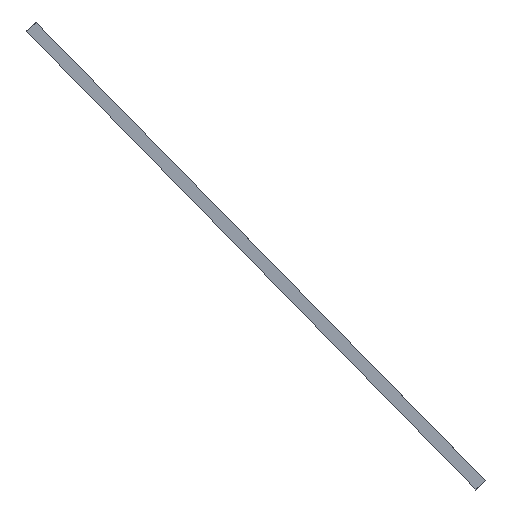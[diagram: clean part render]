
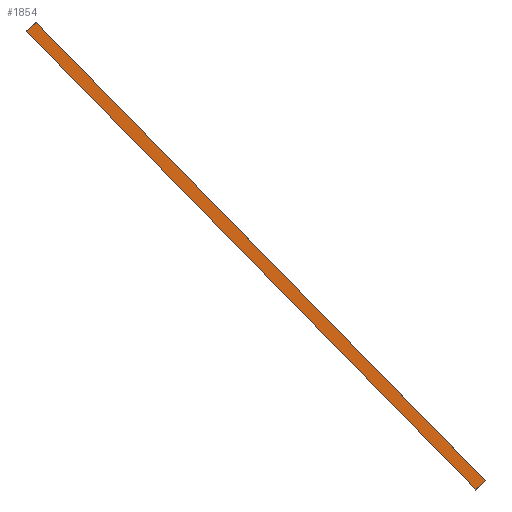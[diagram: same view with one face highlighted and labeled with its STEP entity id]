
A CAD part, left-side view. The second image highlights one B-rep face of the part: STEP entity #1854.
In plain terms, the highlighted planar face has unit normal (-1, 0, 0).
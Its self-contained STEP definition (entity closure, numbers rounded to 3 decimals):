
#36 = EDGE_LOOP ( 'NONE', ( #1361, #1238, #1378, #119 ) ) ;
#78 = EDGE_CURVE ( 'NONE', #307, #433, #205, .T. ) ;
#119 = ORIENTED_EDGE ( 'NONE', *, *, #270, .T. ) ;
#121 = VECTOR ( 'NONE', #1661, 1000. ) ;
#166 = AXIS2_PLACEMENT_3D ( 'NONE', #1355, #1497, #673 ) ;
#194 = DIRECTION ( 'NONE',  ( 0., -0.7, -0.714 ) ) ;
#205 = LINE ( 'NONE', #1435, #121 ) ;
#270 = EDGE_CURVE ( 'NONE', #1788, #307, #582, .T. ) ;
#307 = VERTEX_POINT ( 'NONE', #1608 ) ;
#349 = LINE ( 'NONE', #697, #1986 ) ;
#433 = VERTEX_POINT ( 'NONE', #784 ) ;
#485 = PLANE ( 'NONE',  #166 ) ;
#582 = LINE ( 'NONE', #1231, #2243 ) ;
#654 = VECTOR ( 'NONE', #1735, 1000. ) ;
#673 = DIRECTION ( 'NONE',  ( 0., 0., -1. ) ) ;
#696 = CARTESIAN_POINT ( 'NONE',  ( 5., 1812.905, 1815.342 ) ) ;
#697 = CARTESIAN_POINT ( 'NONE',  ( 5., 1777.184, 1850.328 ) ) ;
#784 = CARTESIAN_POINT ( 'NONE',  ( 5., 87.095, 124.658 ) ) ;
#1010 = FACE_OUTER_BOUND ( 'NONE', #36, .T. ) ;
#1066 = LINE ( 'NONE', #1761, #654 ) ;
#1205 = DIRECTION ( 'NONE',  ( 0., -0.7, -0.714 ) ) ;
#1231 = CARTESIAN_POINT ( 'NONE',  ( 5., 1812.905, 1815.342 ) ) ;
#1238 = ORIENTED_EDGE ( 'NONE', *, *, #1726, .F. ) ;
#1355 = CARTESIAN_POINT ( 'NONE',  ( 5., 1777.184, 1850.328 ) ) ;
#1361 = ORIENTED_EDGE ( 'NONE', *, *, #78, .T. ) ;
#1378 = ORIENTED_EDGE ( 'NONE', *, *, #1966, .F. ) ;
#1435 = CARTESIAN_POINT ( 'NONE',  ( 5., 87.095, 124.658 ) ) ;
#1497 = DIRECTION ( 'NONE',  ( 1., 0., 0. ) ) ;
#1505 = CARTESIAN_POINT ( 'NONE',  ( 5., 1777.184, 1850.328 ) ) ;
#1608 = CARTESIAN_POINT ( 'NONE',  ( 5., 122.816, 89.672 ) ) ;
#1661 = DIRECTION ( 'NONE',  ( 0., -0.714, 0.7 ) ) ;
#1726 = EDGE_CURVE ( 'NONE', #2127, #433, #349, .T. ) ;
#1735 = DIRECTION ( 'NONE',  ( 0., -0.714, 0.7 ) ) ;
#1761 = CARTESIAN_POINT ( 'NONE',  ( 5., 1777.184, 1850.328 ) ) ;
#1788 = VERTEX_POINT ( 'NONE', #696 ) ;
#1854 = ADVANCED_FACE ( 'NONE', ( #1010 ), #485, .F. ) ;
#1966 = EDGE_CURVE ( 'NONE', #1788, #2127, #1066, .T. ) ;
#1986 = VECTOR ( 'NONE', #1205, 1000. ) ;
#2127 = VERTEX_POINT ( 'NONE', #1505 ) ;
#2243 = VECTOR ( 'NONE', #194, 1000. ) ;
